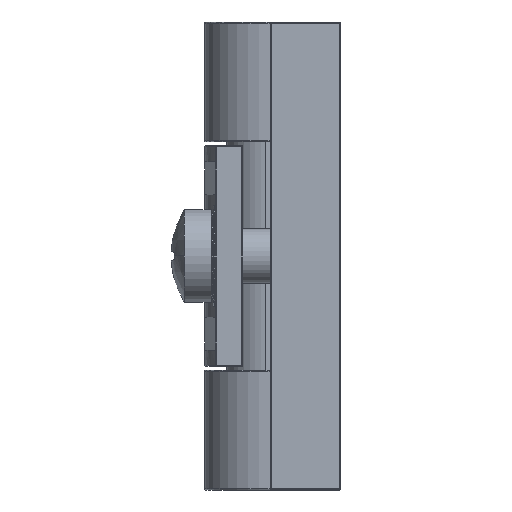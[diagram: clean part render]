
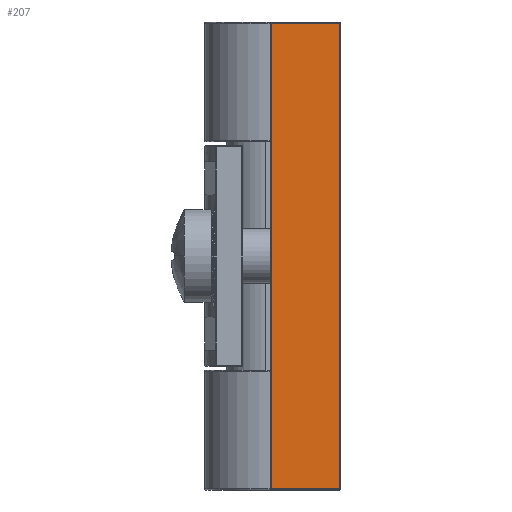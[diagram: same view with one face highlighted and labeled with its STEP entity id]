
A CAD part, left-side view. The second image highlights one B-rep face of the part: STEP entity #207.
In plain terms, the highlighted planar face has unit normal (-1, 0, 0) as drawn and (1, 0, 0) by its records, which use the part's own axes.
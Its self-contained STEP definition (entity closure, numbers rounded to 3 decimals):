
#207 = ADVANCED_FACE ( 'NONE', ( #6727 ), #5686, .F. ) ;
#711 = VERTEX_POINT ( 'NONE', #2068 ) ;
#1721 = ORIENTED_EDGE ( 'NONE', *, *, #12913, .T. ) ;
#2068 = CARTESIAN_POINT ( 'NONE',  ( 18., 0.1, 42.9 ) ) ;
#2227 = CARTESIAN_POINT ( 'NONE',  ( 18., 6.4, 43. ) ) ;
#2255 = VECTOR ( 'NONE', #5004, 1000. ) ;
#2398 = VECTOR ( 'NONE', #4289, 1000. ) ;
#2954 = LINE ( 'NONE', #2227, #7689 ) ;
#3021 = VERTEX_POINT ( 'NONE', #4441 ) ;
#3371 = LINE ( 'NONE', #7299, #2398 ) ;
#3409 = LINE ( 'NONE', #11366, #6905 ) ;
#3698 = EDGE_CURVE ( 'NONE', #5370, #5982, #3409, .T. ) ;
#3782 = DIRECTION ( 'NONE',  ( -1., 0., 0. ) ) ;
#4289 = DIRECTION ( 'NONE',  ( 0., 0., -1. ) ) ;
#4432 = EDGE_LOOP ( 'NONE', ( #7682, #1721, #9969, #6737 ) ) ;
#4441 = CARTESIAN_POINT ( 'NONE',  ( 18., 6.4, 42.9 ) ) ;
#4753 = EDGE_CURVE ( 'NONE', #3021, #711, #7032, .T. ) ;
#5004 = DIRECTION ( 'NONE',  ( 0., -1., 0. ) ) ;
#5370 = VERTEX_POINT ( 'NONE', #8289 ) ;
#5508 = DIRECTION ( 'NONE',  ( 0., 1., 0. ) ) ;
#5686 = PLANE ( 'NONE',  #6642 ) ;
#5982 = VERTEX_POINT ( 'NONE', #6104 ) ;
#6104 = CARTESIAN_POINT ( 'NONE',  ( 18., 6.4, 0.1 ) ) ;
#6642 = AXIS2_PLACEMENT_3D ( 'NONE', #6670, #3782, #12529 ) ;
#6670 = CARTESIAN_POINT ( 'NONE',  ( 18., 6.5, 43. ) ) ;
#6727 = FACE_OUTER_BOUND ( 'NONE', #4432, .T. ) ;
#6737 = ORIENTED_EDGE ( 'NONE', *, *, #8439, .T. ) ;
#6905 = VECTOR ( 'NONE', #5508, 1000. ) ;
#7032 = LINE ( 'NONE', #10086, #2255 ) ;
#7299 = CARTESIAN_POINT ( 'NONE',  ( 18., 0.1, 43. ) ) ;
#7682 = ORIENTED_EDGE ( 'NONE', *, *, #3698, .T. ) ;
#7689 = VECTOR ( 'NONE', #11350, 1000. ) ;
#8289 = CARTESIAN_POINT ( 'NONE',  ( 18., 0.1, 0.1 ) ) ;
#8439 = EDGE_CURVE ( 'NONE', #711, #5370, #3371, .T. ) ;
#9969 = ORIENTED_EDGE ( 'NONE', *, *, #4753, .T. ) ;
#10086 = CARTESIAN_POINT ( 'NONE',  ( 18., 0., 42.9 ) ) ;
#11350 = DIRECTION ( 'NONE',  ( 0., 0., 1. ) ) ;
#11366 = CARTESIAN_POINT ( 'NONE',  ( 18., 6.5, 0.1 ) ) ;
#12529 = DIRECTION ( 'NONE',  ( 0., 0., 1. ) ) ;
#12913 = EDGE_CURVE ( 'NONE', #5982, #3021, #2954, .T. ) ;
